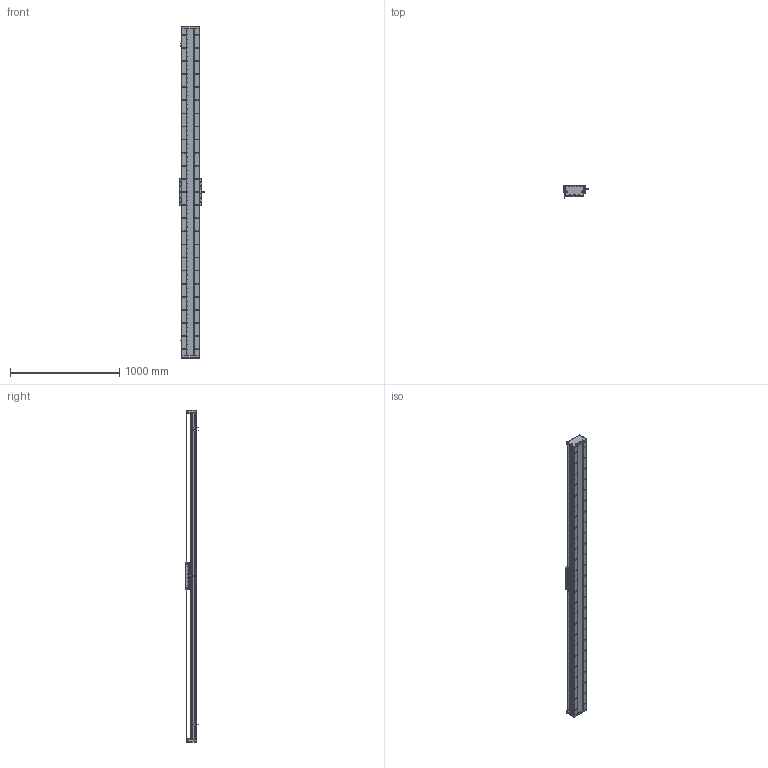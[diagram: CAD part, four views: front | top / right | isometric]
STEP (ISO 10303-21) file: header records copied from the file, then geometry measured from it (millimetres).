
FILE_DESCRIPTION (( 'STEP AP203' ), '1' );
FILE_NAME ('DA-C165-C3-T2700-C010-0.2 直线电机.STEP', '2023-06-13T08:56:13', ( '微软用户' ), ( '微软中国' ), 'SwSTEP 2.0', 'SolidWorks 2019', '' );
FILE_SCHEMA (( 'CONFIG_CONTROL_DESIGN' ));
Length unit declared in the file: millimetre
Products named in the file (18): 复件 CU165 底座^IU-CU165-L 底座导轨_L3000; 葩璃 PM-T45^DA-C165-C3-T-C010-0.2-N 眻盄萇儂; 复件 DA165-GDLK-00 钢带拉块^复件 CU165钢带组件_DA-C165-C3-T-C010-0.2-N 直线电机; 复件 XD-U-02L 磁栅尺^DA-C165-C3-T-C010-0.2-N 直线电机_T; 复件 DA165-GDYK-00 钢带压块^复件 CU165钢带组件_DA-C165-C3-T-C010-0.2-N 直线电机; 葩璃 DA95-GT-T-00^IU-CU165-L 菁釱絳寢_T; 复件 六角薄螺母 M3^DA-C165-C3-T-C010-0.2-N 直线电机_GB_FASTENER_NUT_STNAB M3-C; DA-C165-C3-T2700-C010-0.2 眻盄萇儂; IU-CU165-L 菁釱絳寢; 复件 DMA-010-0.2 读数头^DA-C165-C3-T-C010-0.2-N 直线电机; 复件 CU165钢带组件^DA-C165-C3-T-C010-0.2-N 直线电机; 珨极趙賑雄怢啣C3-wf; 复件 DA165-GD-1860-002-00 钢带盖板^复件 CU165钢带组件_DA-C165-C3-T-C010-0.2-N 直线电机; 葩璃 CKM03-W075-C1C2-TP-3.0^DA-C165-C3-T-C010-0.2-N 眻盄萇儂; 复件 DA165-GYP-00 光电感应片^DA-C165-C3-T-C010-0.2-N 直线电机; 葩璃 CKM01-W075-TRL^DA-C165-C3-T-C010-0.2-N 眻盄萇儂; 复件 DA165-GD-DG-H-00 端盖^复件 CU165钢带组件_DA-C165-C3-T-C010-0.2-N 直线电机; 复件 DA95-HXJ-00 缓冲橡胶^DA-C165-C3-T-C010-0.2-N 直线电机
Assembly tree (35 placements, depth 3):
  DA-C165-C3-T2700-C010-0.2 眻盄萇儂
    IU-CU165-L 菁釱絳寢
      复件 CU165 底座^IU-CU165-L 底座导轨_L3000
      葩璃 DA95-GT-T-00^IU-CU165-L 菁釱絳寢_T  x4
    复件 XD-U-02L 磁栅尺^DA-C165-C3-T-C010-0.2-N 直线电机_T
    葩璃 PM-T45^DA-C165-C3-T-C010-0.2-N 眻盄萇儂  x3
    葩璃 CKM01-W075-TRL^DA-C165-C3-T-C010-0.2-N 眻盄萇儂
    复件 CU165钢带组件^DA-C165-C3-T-C010-0.2-N 直线电机
      复件 DA165-GD-DG-H-00 端盖^复件 CU165钢带组件_DA-C165-C3-T-C010-0.2-N 直线电机  x2
      复件 DA165-GDYK-00 钢带压块^复件 CU165钢带组件_DA-C165-C3-T-C010-0.2-N 直线电机  x2
      复件 DA165-GD-1860-002-00 钢带盖板^复件 CU165钢带组件_DA-C165-C3-T-C010-0.2-N 直线电机
      复件 DA165-GDLK-00 钢带拉块^复件 CU165钢带组件_DA-C165-C3-T-C010-0.2-N 直线电机  x2
    复件 DA95-HXJ-00 缓冲橡胶^DA-C165-C3-T-C010-0.2-N 直线电机  x4
    复件 DA165-GYP-00 光电感应片^DA-C165-C3-T-C010-0.2-N 直线电机
    复件 DMA-010-0.2 读数头^DA-C165-C3-T-C010-0.2-N 直线电机
    葩璃 CKM03-W075-C1C2-TP-3.0^DA-C165-C3-T-C010-0.2-N 眻盄萇儂
    复件 六角薄螺母 M3^DA-C165-C3-T-C010-0.2-N 直线电机_GB_FASTENER_NUT_STNAB M3-C  x8
    珨极趙賑雄怢啣C3-wf
Bounding box: 233 x 111.45 x 3040 mm (x, y, z)
Volume: 17120438.5 mm3; surface area: 5120811.3 mm2
Topology: 72 solids, 122 shells, 4558 faces, 13209 edges, 8374 vertices
Faces by surface type: cylinder 2704, plane 1228, cone 576, torus 46, sphere 4
Entity records: 153481 total; most frequent: CARTESIAN_POINT 42305, ORIENTED_EDGE 23170, DIRECTION 22453, EDGE_CURVE 11585, AXIS2_PLACEMENT_3D 8646, VERTEX_POINT 7562, EDGE_LOOP 5369, LINE 5161
